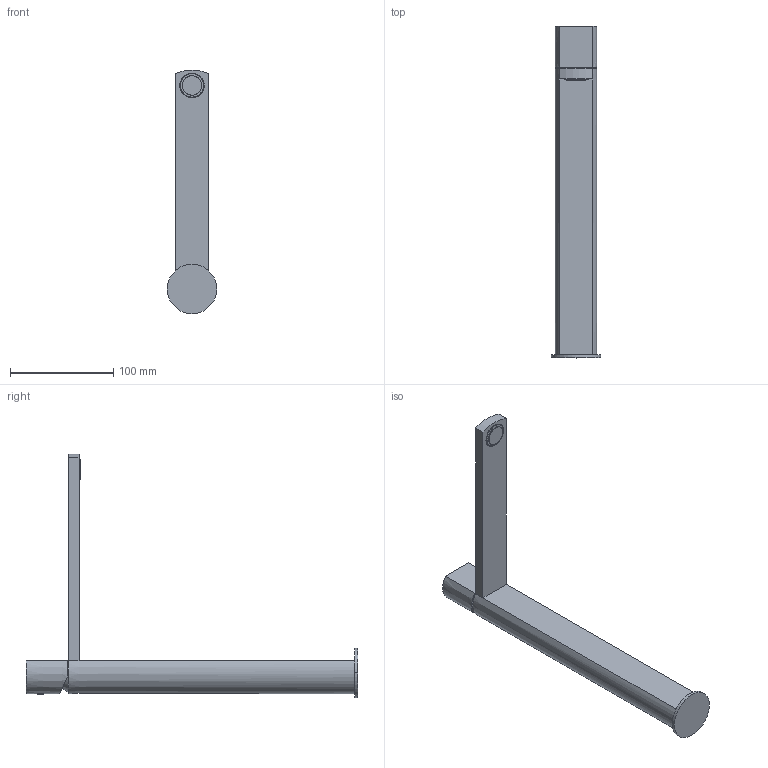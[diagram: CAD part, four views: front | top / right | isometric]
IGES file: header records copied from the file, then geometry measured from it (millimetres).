
Start section:  PTC IGES file: 89065b21_sw0001.igs
Global section: file name: 89065b21_sw0001.igs; native system: Creo Parametric by PTC Inc.; preprocessor: 2018100; author: carloff; organization: Unknown; date: 20200616.164212; units: millimetre
Bounding box: 48 x 321.3 x 235.7 mm (x, y, z)
Surface area: 63417.9 mm2 (no closed solid volume)
Topology: 0 solids, 0 shells, 65 faces, 316 edges, 314 vertices
Faces by surface type: revolution 35, bspline 30
